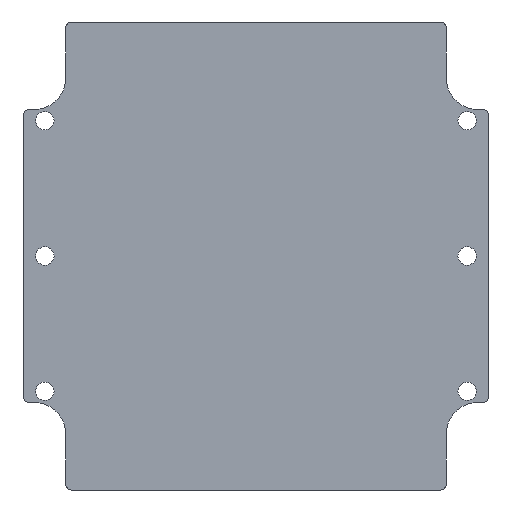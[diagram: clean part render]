
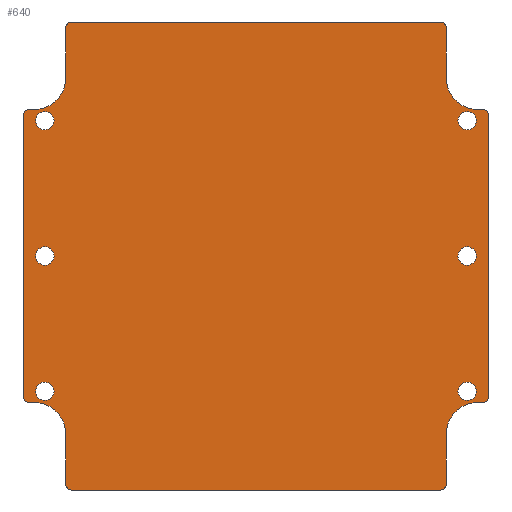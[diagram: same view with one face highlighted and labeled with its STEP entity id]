
A CAD part, front view. The second image highlights one B-rep face of the part: STEP entity #640.
In plain terms, the highlighted planar face has unit normal (0, -1, 0).
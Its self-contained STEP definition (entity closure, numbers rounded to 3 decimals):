
#21=FACE_BOUND('',#111,.T.);
#22=FACE_BOUND('',#112,.T.);
#23=FACE_BOUND('',#113,.T.);
#24=FACE_BOUND('',#114,.T.);
#25=FACE_BOUND('',#115,.T.);
#26=FACE_BOUND('',#116,.T.);
#40=PLANE('',#731);
#72=FACE_OUTER_BOUND('',#110,.T.);
#110=EDGE_LOOP('',(#561,#562,#563,#564,#565,#566,#567,#568,#569,#570,#571,
#572,#573,#574,#575,#576,#577,#578,#579,#580,#581,#582,#583,#584));
#111=EDGE_LOOP('',(#585));
#112=EDGE_LOOP('',(#586));
#113=EDGE_LOOP('',(#587));
#114=EDGE_LOOP('',(#588));
#115=EDGE_LOOP('',(#589));
#116=EDGE_LOOP('',(#590));
#123=LINE('',#964,#177);
#128=LINE('',#978,#182);
#132=LINE('',#990,#186);
#136=LINE('',#1002,#190);
#140=LINE('',#1014,#194);
#144=LINE('',#1026,#198);
#148=LINE('',#1038,#202);
#152=LINE('',#1050,#206);
#156=LINE('',#1062,#210);
#160=LINE('',#1074,#214);
#164=LINE('',#1086,#218);
#168=LINE('',#1098,#222);
#177=VECTOR('',#778,10.);
#182=VECTOR('',#791,10.);
#186=VECTOR('',#803,10.);
#190=VECTOR('',#815,10.);
#194=VECTOR('',#827,10.);
#198=VECTOR('',#839,10.);
#202=VECTOR('',#851,10.);
#206=VECTOR('',#863,10.);
#210=VECTOR('',#875,10.);
#214=VECTOR('',#887,10.);
#218=VECTOR('',#899,10.);
#222=VECTOR('',#911,10.);
#226=CIRCLE('',#666,3.265);
#228=CIRCLE('',#669,3.265);
#230=CIRCLE('',#672,3.265);
#232=CIRCLE('',#675,3.265);
#234=CIRCLE('',#678,3.265);
#236=CIRCLE('',#681,3.265);
#237=CIRCLE('',#684,11.);
#239=CIRCLE('',#688,2.);
#241=CIRCLE('',#692,2.);
#243=CIRCLE('',#696,11.);
#245=CIRCLE('',#700,2.);
#247=CIRCLE('',#704,2.);
#249=CIRCLE('',#708,11.);
#251=CIRCLE('',#712,2.);
#253=CIRCLE('',#716,2.);
#255=CIRCLE('',#720,11.);
#257=CIRCLE('',#724,2.);
#259=CIRCLE('',#728,2.);
#262=VERTEX_POINT('',#928);
#264=VERTEX_POINT('',#934);
#266=VERTEX_POINT('',#940);
#268=VERTEX_POINT('',#946);
#270=VERTEX_POINT('',#952);
#272=VERTEX_POINT('',#958);
#273=VERTEX_POINT('',#962);
#274=VERTEX_POINT('',#963);
#277=VERTEX_POINT('',#971);
#279=VERTEX_POINT('',#977);
#281=VERTEX_POINT('',#983);
#283=VERTEX_POINT('',#989);
#285=VERTEX_POINT('',#995);
#287=VERTEX_POINT('',#1001);
#289=VERTEX_POINT('',#1007);
#291=VERTEX_POINT('',#1013);
#293=VERTEX_POINT('',#1019);
#295=VERTEX_POINT('',#1025);
#297=VERTEX_POINT('',#1031);
#299=VERTEX_POINT('',#1037);
#301=VERTEX_POINT('',#1043);
#303=VERTEX_POINT('',#1049);
#305=VERTEX_POINT('',#1055);
#307=VERTEX_POINT('',#1061);
#309=VERTEX_POINT('',#1067);
#311=VERTEX_POINT('',#1073);
#313=VERTEX_POINT('',#1079);
#315=VERTEX_POINT('',#1085);
#317=VERTEX_POINT('',#1091);
#319=VERTEX_POINT('',#1097);
#323=EDGE_CURVE('',#262,#262,#226,.T.);
#326=EDGE_CURVE('',#264,#264,#228,.T.);
#329=EDGE_CURVE('',#266,#266,#230,.T.);
#332=EDGE_CURVE('',#268,#268,#232,.T.);
#335=EDGE_CURVE('',#270,#270,#234,.T.);
#338=EDGE_CURVE('',#272,#272,#236,.T.);
#339=EDGE_CURVE('',#273,#274,#123,.T.);
#343=EDGE_CURVE('',#277,#273,#237,.T.);
#346=EDGE_CURVE('',#279,#277,#128,.T.);
#349=EDGE_CURVE('',#281,#279,#239,.T.);
#352=EDGE_CURVE('',#283,#281,#132,.T.);
#355=EDGE_CURVE('',#285,#283,#241,.T.);
#358=EDGE_CURVE('',#287,#285,#136,.T.);
#361=EDGE_CURVE('',#289,#287,#243,.T.);
#364=EDGE_CURVE('',#291,#289,#140,.T.);
#367=EDGE_CURVE('',#293,#291,#245,.T.);
#370=EDGE_CURVE('',#295,#293,#144,.T.);
#373=EDGE_CURVE('',#297,#295,#247,.T.);
#376=EDGE_CURVE('',#299,#297,#148,.T.);
#379=EDGE_CURVE('',#301,#299,#249,.T.);
#382=EDGE_CURVE('',#303,#301,#152,.T.);
#385=EDGE_CURVE('',#305,#303,#251,.T.);
#388=EDGE_CURVE('',#307,#305,#156,.T.);
#391=EDGE_CURVE('',#309,#307,#253,.T.);
#394=EDGE_CURVE('',#311,#309,#160,.T.);
#397=EDGE_CURVE('',#313,#311,#255,.T.);
#400=EDGE_CURVE('',#315,#313,#164,.T.);
#403=EDGE_CURVE('',#317,#315,#257,.T.);
#406=EDGE_CURVE('',#319,#317,#168,.T.);
#409=EDGE_CURVE('',#274,#319,#259,.T.);
#561=ORIENTED_EDGE('',*,*,#409,.F.);
#562=ORIENTED_EDGE('',*,*,#339,.F.);
#563=ORIENTED_EDGE('',*,*,#343,.F.);
#564=ORIENTED_EDGE('',*,*,#346,.F.);
#565=ORIENTED_EDGE('',*,*,#349,.F.);
#566=ORIENTED_EDGE('',*,*,#352,.F.);
#567=ORIENTED_EDGE('',*,*,#355,.F.);
#568=ORIENTED_EDGE('',*,*,#358,.F.);
#569=ORIENTED_EDGE('',*,*,#361,.F.);
#570=ORIENTED_EDGE('',*,*,#364,.F.);
#571=ORIENTED_EDGE('',*,*,#367,.F.);
#572=ORIENTED_EDGE('',*,*,#370,.F.);
#573=ORIENTED_EDGE('',*,*,#373,.F.);
#574=ORIENTED_EDGE('',*,*,#376,.F.);
#575=ORIENTED_EDGE('',*,*,#379,.F.);
#576=ORIENTED_EDGE('',*,*,#382,.F.);
#577=ORIENTED_EDGE('',*,*,#385,.F.);
#578=ORIENTED_EDGE('',*,*,#388,.F.);
#579=ORIENTED_EDGE('',*,*,#391,.F.);
#580=ORIENTED_EDGE('',*,*,#394,.F.);
#581=ORIENTED_EDGE('',*,*,#397,.F.);
#582=ORIENTED_EDGE('',*,*,#400,.F.);
#583=ORIENTED_EDGE('',*,*,#403,.F.);
#584=ORIENTED_EDGE('',*,*,#406,.F.);
#585=ORIENTED_EDGE('',*,*,#338,.F.);
#586=ORIENTED_EDGE('',*,*,#335,.F.);
#587=ORIENTED_EDGE('',*,*,#332,.F.);
#588=ORIENTED_EDGE('',*,*,#329,.F.);
#589=ORIENTED_EDGE('',*,*,#326,.F.);
#590=ORIENTED_EDGE('',*,*,#323,.F.);
#640=ADVANCED_FACE('',(#72,#21,#22,#23,#24,#25,#26),#40,.F.);
#666=AXIS2_PLACEMENT_3D('',#930,#739,#740);
#669=AXIS2_PLACEMENT_3D('',#936,#746,#747);
#672=AXIS2_PLACEMENT_3D('',#942,#753,#754);
#675=AXIS2_PLACEMENT_3D('',#948,#760,#761);
#678=AXIS2_PLACEMENT_3D('',#954,#767,#768);
#681=AXIS2_PLACEMENT_3D('',#960,#774,#775);
#684=AXIS2_PLACEMENT_3D('',#972,#784,#785);
#688=AXIS2_PLACEMENT_3D('',#984,#796,#797);
#692=AXIS2_PLACEMENT_3D('',#996,#808,#809);
#696=AXIS2_PLACEMENT_3D('',#1008,#820,#821);
#700=AXIS2_PLACEMENT_3D('',#1020,#832,#833);
#704=AXIS2_PLACEMENT_3D('',#1032,#844,#845);
#708=AXIS2_PLACEMENT_3D('',#1044,#856,#857);
#712=AXIS2_PLACEMENT_3D('',#1056,#868,#869);
#716=AXIS2_PLACEMENT_3D('',#1068,#880,#881);
#720=AXIS2_PLACEMENT_3D('',#1080,#892,#893);
#724=AXIS2_PLACEMENT_3D('',#1092,#904,#905);
#728=AXIS2_PLACEMENT_3D('',#1103,#916,#917);
#731=AXIS2_PLACEMENT_3D('',#1106,#922,#923);
#739=DIRECTION('center_axis',(0.,-1.,0.));
#740=DIRECTION('ref_axis',(1.,0.,0.));
#746=DIRECTION('center_axis',(0.,-1.,0.));
#747=DIRECTION('ref_axis',(1.,0.,0.));
#753=DIRECTION('center_axis',(0.,-1.,0.));
#754=DIRECTION('ref_axis',(1.,0.,0.));
#760=DIRECTION('center_axis',(0.,-1.,0.));
#761=DIRECTION('ref_axis',(1.,0.,0.));
#767=DIRECTION('center_axis',(0.,-1.,0.));
#768=DIRECTION('ref_axis',(1.,0.,0.));
#774=DIRECTION('center_axis',(0.,-1.,0.));
#775=DIRECTION('ref_axis',(1.,0.,0.));
#778=DIRECTION('',(0.,0.,1.));
#784=DIRECTION('center_axis',(0.,-1.,0.));
#785=DIRECTION('ref_axis',(-1.,0.,0.));
#791=DIRECTION('',(1.,0.,0.));
#796=DIRECTION('center_axis',(0.,1.,0.));
#797=DIRECTION('ref_axis',(-1.,0.,0.));
#803=DIRECTION('',(0.,0.,1.));
#808=DIRECTION('center_axis',(0.,1.,0.));
#809=DIRECTION('ref_axis',(0.,0.,-1.));
#815=DIRECTION('',(-1.,0.,0.));
#820=DIRECTION('center_axis',(0.,-1.,0.));
#821=DIRECTION('ref_axis',(0.,0.,-1.));
#827=DIRECTION('',(0.,0.,1.));
#832=DIRECTION('center_axis',(0.,1.,0.));
#833=DIRECTION('ref_axis',(0.,0.,-1.));
#839=DIRECTION('',(-1.,0.,0.));
#844=DIRECTION('center_axis',(0.,1.,0.));
#845=DIRECTION('ref_axis',(1.,0.,0.));
#851=DIRECTION('',(0.,0.,-1.));
#856=DIRECTION('center_axis',(0.,-1.,0.));
#857=DIRECTION('ref_axis',(1.,0.,0.));
#863=DIRECTION('',(-1.,0.,0.));
#868=DIRECTION('center_axis',(0.,1.,0.));
#869=DIRECTION('ref_axis',(1.,0.,0.));
#875=DIRECTION('',(0.,0.,-1.));
#880=DIRECTION('center_axis',(0.,1.,0.));
#881=DIRECTION('ref_axis',(0.,0.,1.));
#887=DIRECTION('',(1.,0.,0.));
#892=DIRECTION('center_axis',(0.,-1.,0.));
#893=DIRECTION('ref_axis',(0.,0.,1.));
#899=DIRECTION('',(0.,0.,-1.));
#904=DIRECTION('center_axis',(0.,1.,0.));
#905=DIRECTION('ref_axis',(0.,0.,1.));
#911=DIRECTION('',(1.,0.,0.));
#916=DIRECTION('center_axis',(0.,1.,0.));
#917=DIRECTION('ref_axis',(-1.,0.,0.));
#922=DIRECTION('center_axis',(0.,1.,0.));
#923=DIRECTION('ref_axis',(0.,0.,1.));
#928=CARTESIAN_POINT('',(-78.14,0.,48.));
#930=CARTESIAN_POINT('Origin',(-74.875,0.,48.));
#934=CARTESIAN_POINT('',(-78.14,0.,-48.));
#936=CARTESIAN_POINT('Origin',(-74.875,0.,-48.));
#940=CARTESIAN_POINT('',(-78.14,0.,0.));
#942=CARTESIAN_POINT('Origin',(-74.875,0.,0.));
#946=CARTESIAN_POINT('',(71.61,0.,-48.));
#948=CARTESIAN_POINT('Origin',(74.875,0.,-48.));
#952=CARTESIAN_POINT('',(71.61,0.,0.));
#954=CARTESIAN_POINT('Origin',(74.875,0.,0.));
#958=CARTESIAN_POINT('',(71.61,0.,48.));
#960=CARTESIAN_POINT('Origin',(74.875,0.,48.));
#962=CARTESIAN_POINT('',(-67.5,0.,63.));
#963=CARTESIAN_POINT('',(-67.5,0.,81.));
#964=CARTESIAN_POINT('',(-67.5,0.,63.));
#971=CARTESIAN_POINT('',(-78.5,0.,52.));
#972=CARTESIAN_POINT('Origin',(-78.5,0.,63.));
#977=CARTESIAN_POINT('',(-80.5,0.,52.));
#978=CARTESIAN_POINT('',(-80.5,0.,52.));
#983=CARTESIAN_POINT('',(-82.5,0.,50.));
#984=CARTESIAN_POINT('Origin',(-80.5,0.,50.));
#989=CARTESIAN_POINT('',(-82.5,0.,-50.));
#990=CARTESIAN_POINT('',(-82.5,0.,-50.));
#995=CARTESIAN_POINT('',(-80.5,0.,-52.));
#996=CARTESIAN_POINT('Origin',(-80.5,0.,-50.));
#1001=CARTESIAN_POINT('',(-78.5,0.,-52.));
#1002=CARTESIAN_POINT('',(-78.5,0.,-52.));
#1007=CARTESIAN_POINT('',(-67.5,0.,-63.));
#1008=CARTESIAN_POINT('Origin',(-78.5,0.,-63.));
#1013=CARTESIAN_POINT('',(-67.5,0.,-81.));
#1014=CARTESIAN_POINT('',(-67.5,0.,-81.));
#1019=CARTESIAN_POINT('',(-65.5,0.,-83.));
#1020=CARTESIAN_POINT('Origin',(-65.5,0.,-81.));
#1025=CARTESIAN_POINT('',(65.5,0.,-83.));
#1026=CARTESIAN_POINT('',(65.5,0.,-83.));
#1031=CARTESIAN_POINT('',(67.5,0.,-81.));
#1032=CARTESIAN_POINT('Origin',(65.5,0.,-81.));
#1037=CARTESIAN_POINT('',(67.5,0.,-63.));
#1038=CARTESIAN_POINT('',(67.5,0.,-63.));
#1043=CARTESIAN_POINT('',(78.5,0.,-52.));
#1044=CARTESIAN_POINT('Origin',(78.5,0.,-63.));
#1049=CARTESIAN_POINT('',(80.5,0.,-52.));
#1050=CARTESIAN_POINT('',(80.5,0.,-52.));
#1055=CARTESIAN_POINT('',(82.5,0.,-50.));
#1056=CARTESIAN_POINT('Origin',(80.5,0.,-50.));
#1061=CARTESIAN_POINT('',(82.5,0.,50.));
#1062=CARTESIAN_POINT('',(82.5,0.,50.));
#1067=CARTESIAN_POINT('',(80.5,0.,52.));
#1068=CARTESIAN_POINT('Origin',(80.5,0.,50.));
#1073=CARTESIAN_POINT('',(78.5,0.,52.));
#1074=CARTESIAN_POINT('',(78.5,0.,52.));
#1079=CARTESIAN_POINT('',(67.5,0.,63.));
#1080=CARTESIAN_POINT('Origin',(78.5,0.,63.));
#1085=CARTESIAN_POINT('',(67.5,0.,81.));
#1086=CARTESIAN_POINT('',(67.5,0.,81.));
#1091=CARTESIAN_POINT('',(65.5,0.,83.));
#1092=CARTESIAN_POINT('Origin',(65.5,0.,81.));
#1097=CARTESIAN_POINT('',(-65.5,0.,83.));
#1098=CARTESIAN_POINT('',(-65.5,0.,83.));
#1103=CARTESIAN_POINT('Origin',(-65.5,0.,81.));
#1106=CARTESIAN_POINT('Origin',(0.,0.,0.));
